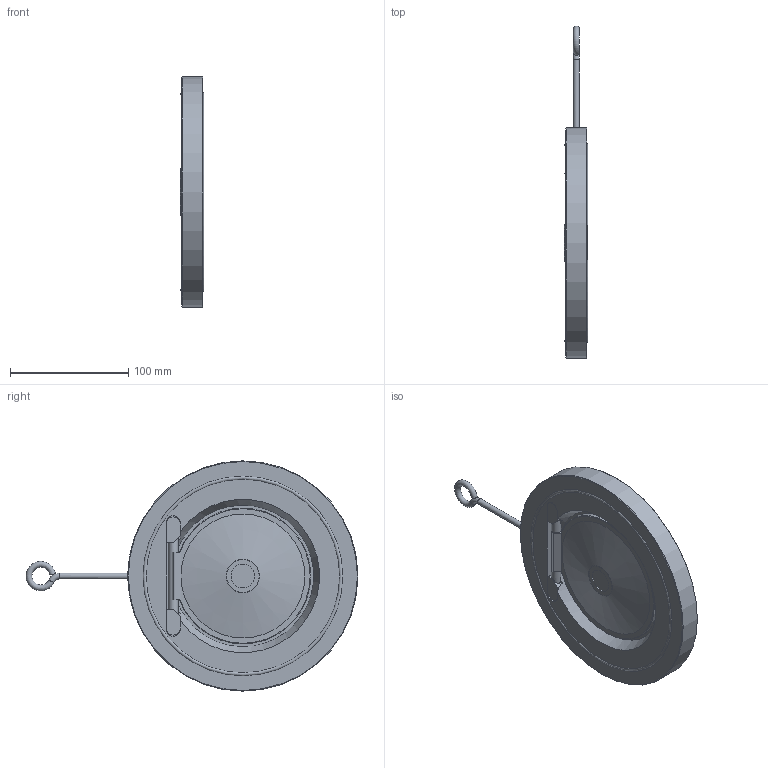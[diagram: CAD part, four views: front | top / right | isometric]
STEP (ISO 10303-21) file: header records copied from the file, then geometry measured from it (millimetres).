
FILE_DESCRIPTION(/* description */ (''),/* implementation_level */ '2;1');
FILE_NAME(/* name */ '944600343.stp',/* time_stamp */ '2025-05-02T13:42:55+02:00',/* author */ ('JJ'),/* organization */ ('TraceParts S.A.'),/* preprocessor_version */ 'ST-DEVELOPER v20',/* originating_system */ 'Autodesk Inventor 2025',/* authorisation */ '');
FILE_SCHEMA (('AUTOMOTIVE_DESIGN { 1 0 10303 214 3 1 1 }'));
Length unit declared in the file: millimetre
Products named in the file (1): 944600343
Bounding box: 19.6 x 281.15 x 195 mm (x, y, z)
Volume: 437720.7 mm3; surface area: 85814.9 mm2
Topology: 3 solids, 4 shells, 55 faces, 131 edges, 87 vertices
Faces by surface type: plane 31, cylinder 13, torus 6, cone 5
Full cylindrical faces by diameter (mm): 5 x1, 20 x1, 92 x1, 195 x1
Entity records: 1828 total; most frequent: CARTESIAN_POINT 400, DIRECTION 282, ORIENTED_EDGE 262, EDGE_CURVE 131, AXIS2_PLACEMENT_3D 107, VERTEX_POINT 87, LINE 68, VECTOR 68
